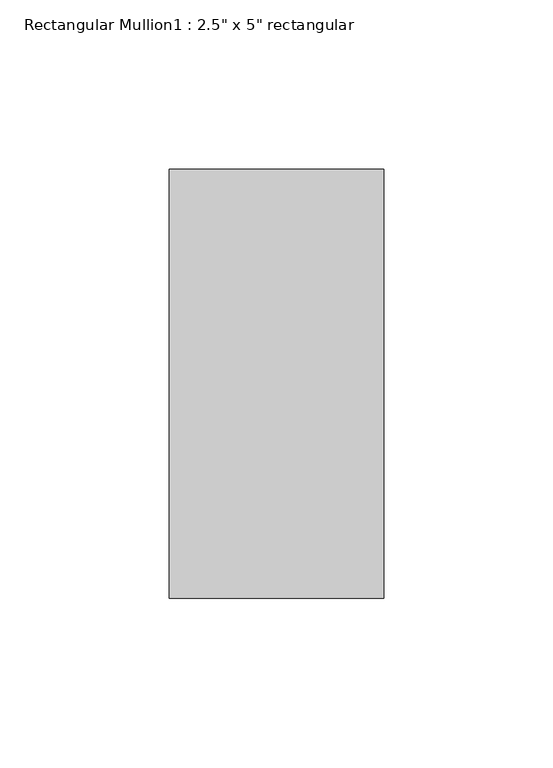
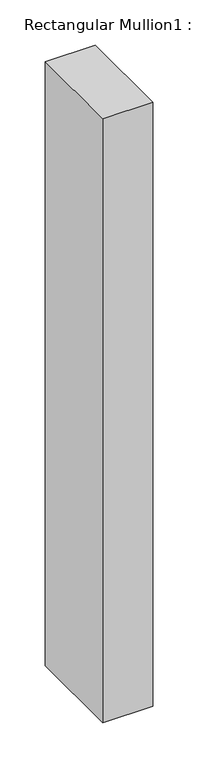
"""IFC4 building model written with IfcOpenShell, lengths in millimetres: member geometry."""

from ifc_helpers import new_model, si_unit, frame, origin, place, context, project, spatial, polyline, outline, extrude, source, transform, mapped, element, save


def member_7227ddca(model_context):
    return source(origin(), model_context, "Body", "SweptSolid", [
        extrude(outline(polyline([(0.0, 63.5), (0.0, -63.5), (-63.5, -63.5), (-63.5, 63.5), (0.0, 63.5)])), frame((0.0, 0.0, -813.7989637), z_axis=(0.0, 0.0, 1.0), x_axis=(1.0, 0.0, 0.0)), (0.0, 0.0, 1.0), 813.7989637),
    ])


if __name__ == "__main__":
    model = new_model("IFC4")
    model_context = context("Model", 3, world=origin())
    ifc_project = project(units=[si_unit("LENGTHUNIT", "METRE", prefix="MILLI")], contexts=[model_context])
    site = spatial("IfcSite", under=ifc_project)
    building = spatial("IfcBuilding", under=site)
    placement = place(None, origin())
    member_shape = member_7227ddca(model_context)
    element("IfcMember", 1, ObjectType="Rectangular Mullion1 : 2.5\" x 5\" rectangular", at=placement, inside=building, context=model_context, shape_type="MappedRepresentation", body=[
        mapped(member_shape, transform((0.0, 0.0, 0.0), x_axis=(1.0, 0.0, 0.0), y_axis=(0.0, 1.0, 0.0), z_axis=(0.0, 0.0, 1.0))),
    ])
    save(model, "model.ifc")
